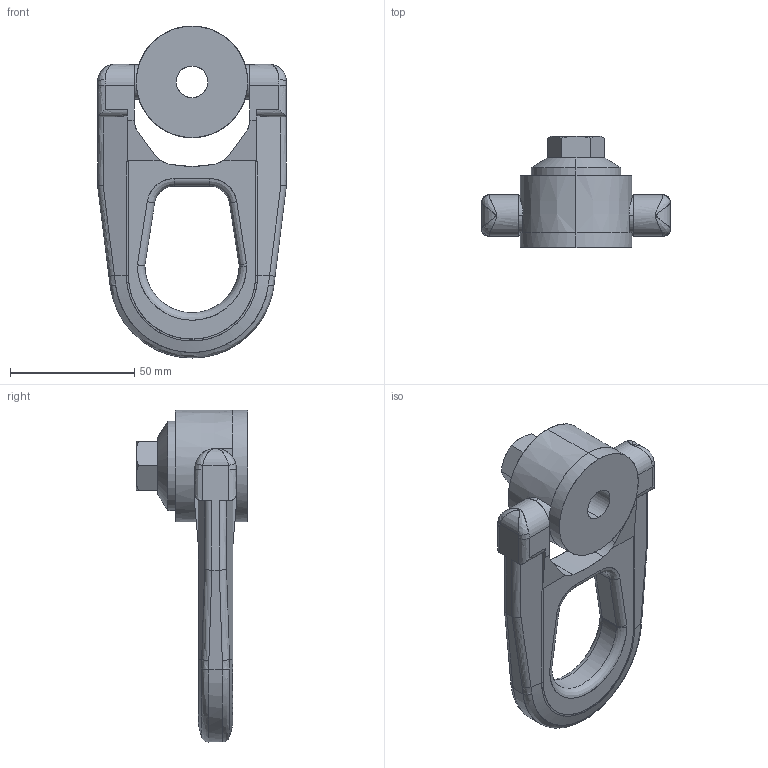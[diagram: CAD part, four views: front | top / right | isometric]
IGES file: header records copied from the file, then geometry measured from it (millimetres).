
Start section: SolidWorks IGES file using analytic representation for surfaces
Global section: file name: C:\Documents and Settings\IANO\My Documents\Wix and Auto CAD Work\CAD Models\Parametric Models\Wix Models\60000\63054_v2\63054_v2_IGES\63054.W0050.igs; native system: SolidWorks 2009; preprocessor: SolidWorks 2009; author: IANO; date: 131212.160003; units: millimetre
Bounding box: 76 x 45 x 133.75 mm (x, y, z)
Surface area: 27860 mm2 (no closed solid volume)
Topology: 0 solids, 0 shells, 143 faces, 1858 edges, 1858 vertices
Faces by surface type: bspline 86, revolution 57
